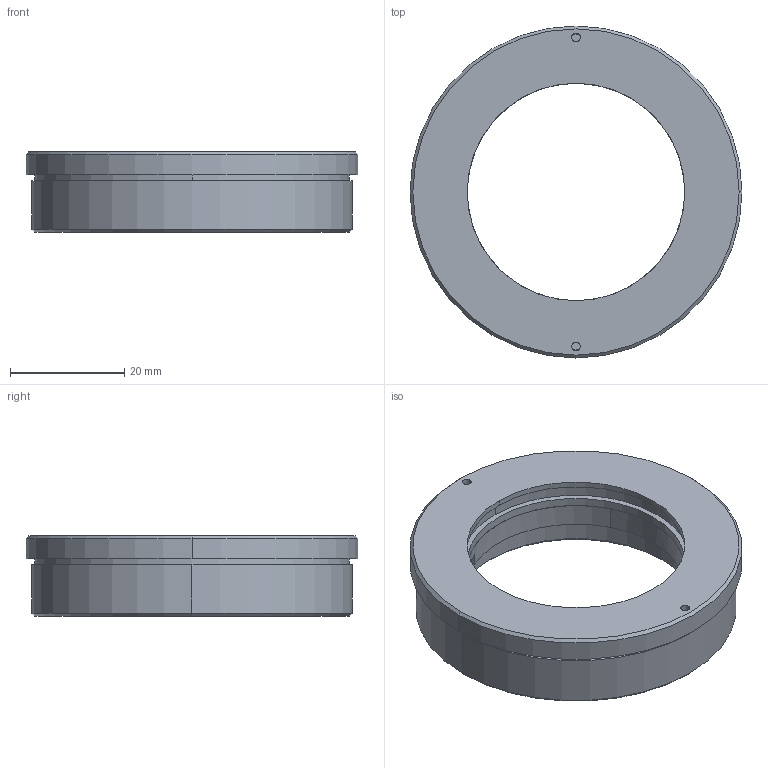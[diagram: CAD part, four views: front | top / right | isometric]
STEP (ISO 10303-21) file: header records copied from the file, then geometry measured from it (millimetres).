
FILE_DESCRIPTION (( 'STEP AP203' ), '1' );
FILE_NAME ('7MA240变径圈.STEP', '2019-10-24T07:31:27', ( '' ), ( '' ), 'SwSTEP 2.0', 'SolidWorks 2014', '' );
FILE_SCHEMA (( 'CONFIG_CONTROL_DESIGN' ));
Length unit declared in the file: millimetre
Products named in the file (1): 7MA240变径圈
Bounding box: 58 x 58 x 14 mm (x, y, z)
Surface area: 8584 mm2 (no closed solid volume)
Topology: 0 solids, 3 shells, 42 faces, 102 edges, 68 vertices
Faces by surface type: cylinder 20, plane 16, cone 6
Entity records: 1331 total; most frequent: DIRECTION 248, CARTESIAN_POINT 213, ORIENTED_EDGE 182, AXIS2_PLACEMENT_3D 103, EDGE_CURVE 102, VERTEX_POINT 68, CIRCLE 60, EDGE_LOOP 52
